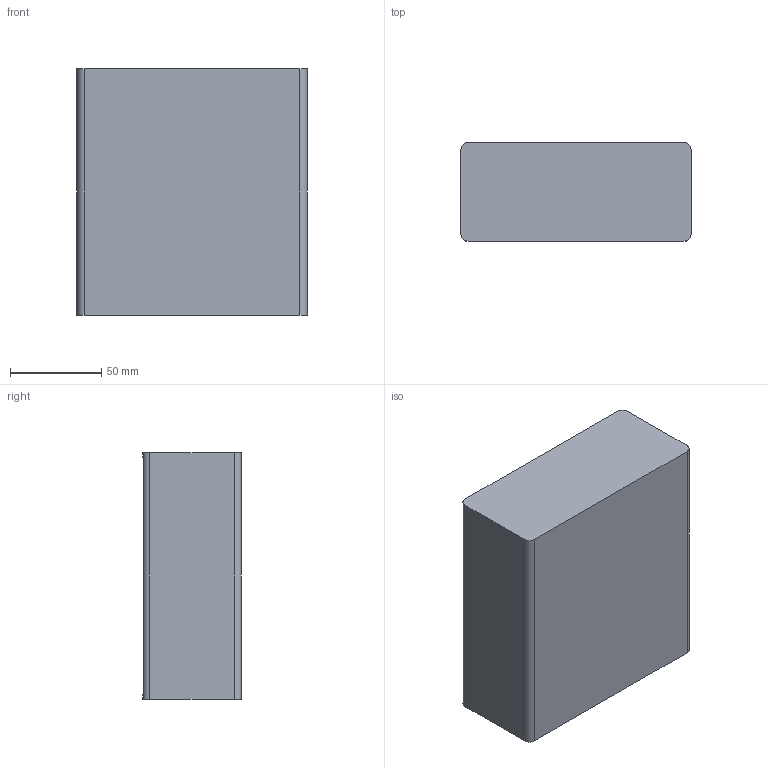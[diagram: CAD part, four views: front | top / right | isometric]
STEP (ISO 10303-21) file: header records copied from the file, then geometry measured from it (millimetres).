
FILE_DESCRIPTION(('FreeCAD Model'),'2;1');
FILE_NAME('Open CASCADE Shape Model','2026-10-31T13:49:49',('FreeCAD'),( 'FreeCAD'),'Open CASCADE STEP processor 7.8','FreeCAD','Unknown');
FILE_SCHEMA(('AUTOMOTIVE_DESIGN { 1 0 10303 214 1 1 1 1 }'));
Length unit declared in the file: millimetre
Products named in the file (1): Open CASCADE STEP translator 7.8 18
Bounding box: 126 x 54 x 135 mm (x, y, z)
Volume: 102318.3 mm3; surface area: 87038.9 mm2
Topology: 1 solids, 1 shells, 17 faces, 45 edges, 30 vertices
Faces by surface type: plane 12, cylinder 5
Full cylindrical faces by diameter (mm): 9 x1
Entity records: 547 total; most frequent: DIRECTION 95, CARTESIAN_POINT 93, ORIENTED_EDGE 90, EDGE_CURVE 45, AXIS2_PLACEMENT_3D 32, LINE 31, VECTOR 31, VERTEX_POINT 30
